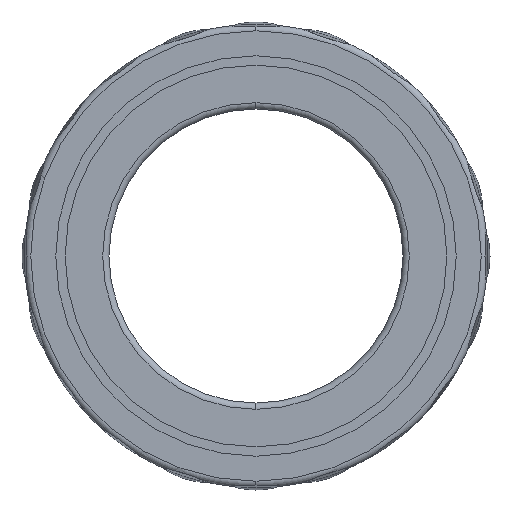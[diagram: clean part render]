
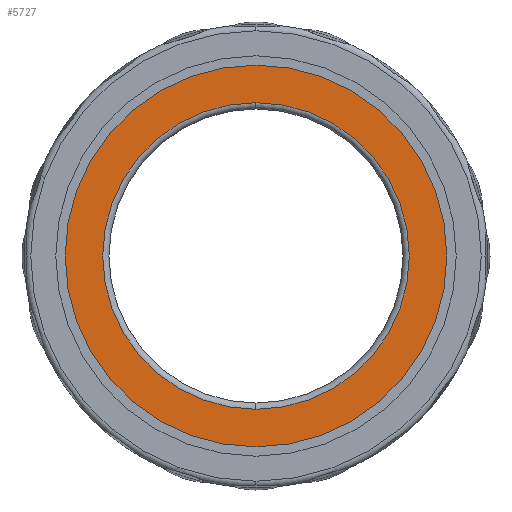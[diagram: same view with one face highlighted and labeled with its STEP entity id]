
A CAD part, front view. The second image highlights one B-rep face of the part: STEP entity #5727.
In plain terms, the highlighted planar face has unit normal (0, -1, 0).
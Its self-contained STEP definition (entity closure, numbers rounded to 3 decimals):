
#122 = EDGE_CURVE ( 'NONE', #8946, #4058, #1598, .T. ) ;
#131 = EDGE_LOOP ( 'NONE', ( #6488, #2649 ) ) ;
#190 = AXIS2_PLACEMENT_3D ( 'NONE', #9867, #5729, #7444 ) ;
#724 = CARTESIAN_POINT ( 'NONE',  ( 16384.265, 2708.81, -15.25 ) ) ;
#743 = AXIS2_PLACEMENT_3D ( 'NONE', #3979, #2367, #3182 ) ;
#962 = CARTESIAN_POINT ( 'NONE',  ( 16384.265, 2708.81, 0. ) ) ;
#1242 = FACE_OUTER_BOUND ( 'NONE', #131, .T. ) ;
#1598 = CIRCLE ( 'NONE', #743, 15.25 ) ;
#1732 = CARTESIAN_POINT ( 'NONE',  ( 16384.265, 2708.81, 15.25 ) ) ;
#2367 = DIRECTION ( 'NONE',  ( 0., -1., 0. ) ) ;
#2585 = AXIS2_PLACEMENT_3D ( 'NONE', #962, #2699, #7855 ) ;
#2626 = EDGE_CURVE ( 'NONE', #4058, #8946, #8419, .T. ) ;
#2649 = ORIENTED_EDGE ( 'NONE', *, *, #122, .T. ) ;
#2699 = DIRECTION ( 'NONE',  ( 0., -1., 0. ) ) ;
#3182 = DIRECTION ( 'NONE',  ( 0., 0., -1. ) ) ;
#3291 = EDGE_CURVE ( 'NONE', #9440, #6960, #5475, .T. ) ;
#3895 = ORIENTED_EDGE ( 'NONE', *, *, #5071, .F. ) ;
#3979 = CARTESIAN_POINT ( 'NONE',  ( 16384.265, 2708.81, 0. ) ) ;
#4010 = FACE_BOUND ( 'NONE', #6379, .T. ) ;
#4058 = VERTEX_POINT ( 'NONE', #724 ) ;
#4781 = DIRECTION ( 'NONE',  ( 0., 0., -1. ) ) ;
#5071 = EDGE_CURVE ( 'NONE', #6960, #9440, #7638, .T. ) ;
#5475 = CIRCLE ( 'NONE', #2585, 12.25 ) ;
#5727 = ADVANCED_FACE ( 'NONE', ( #4010, #1242 ), #7891, .F. ) ;
#5729 = DIRECTION ( 'NONE',  ( 0., -1., 0. ) ) ;
#5909 = AXIS2_PLACEMENT_3D ( 'NONE', #8714, #9556, #7076 ) ;
#6379 = EDGE_LOOP ( 'NONE', ( #8028, #3895 ) ) ;
#6488 = ORIENTED_EDGE ( 'NONE', *, *, #2626, .T. ) ;
#6653 = DIRECTION ( 'NONE',  ( 0., -1., 0. ) ) ;
#6778 = CARTESIAN_POINT ( 'NONE',  ( 16384.265, 2708.81, -12.25 ) ) ;
#6960 = VERTEX_POINT ( 'NONE', #8808 ) ;
#7076 = DIRECTION ( 'NONE',  ( 0., 0., 1. ) ) ;
#7444 = DIRECTION ( 'NONE',  ( 0., 0., -1. ) ) ;
#7638 = CIRCLE ( 'NONE', #190, 12.25 ) ;
#7855 = DIRECTION ( 'NONE',  ( 0., 0., -1. ) ) ;
#7891 = PLANE ( 'NONE',  #5909 ) ;
#8028 = ORIENTED_EDGE ( 'NONE', *, *, #3291, .F. ) ;
#8419 = CIRCLE ( 'NONE', #8503, 15.25 ) ;
#8503 = AXIS2_PLACEMENT_3D ( 'NONE', #9040, #6653, #4781 ) ;
#8714 = CARTESIAN_POINT ( 'NONE',  ( 16369.015, 2708.81, 0. ) ) ;
#8808 = CARTESIAN_POINT ( 'NONE',  ( 16384.265, 2708.81, 12.25 ) ) ;
#8946 = VERTEX_POINT ( 'NONE', #1732 ) ;
#9040 = CARTESIAN_POINT ( 'NONE',  ( 16384.265, 2708.81, 0. ) ) ;
#9440 = VERTEX_POINT ( 'NONE', #6778 ) ;
#9556 = DIRECTION ( 'NONE',  ( 0., 1., 0. ) ) ;
#9867 = CARTESIAN_POINT ( 'NONE',  ( 16384.265, 2708.81, 0. ) ) ;
